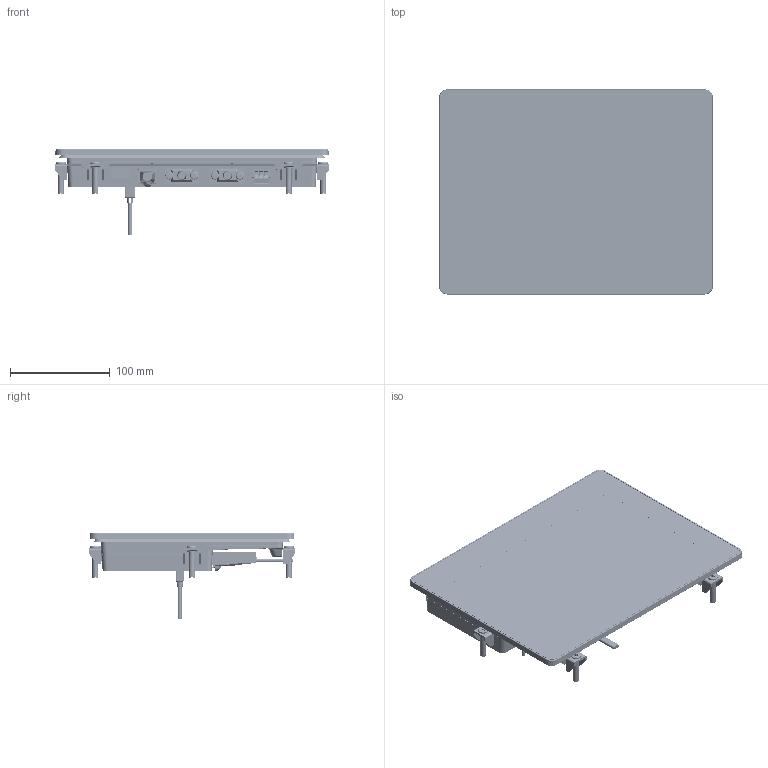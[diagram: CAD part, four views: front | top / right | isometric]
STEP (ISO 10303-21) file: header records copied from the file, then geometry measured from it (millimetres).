
FILE_DESCRIPTION((''),'2;1');
FILE_NAME('10_ASM_ASM','2024-09-29T14:08:31',('SESA409019'),('Schneider-Electric'),'CREO PARAMETRIC BY PTC INC, 2021284','CREO PARAMETRIC BY PTC INC, 2021284','');
FILE_SCHEMA(('AP242_MANAGED_MODEL_BASED_3D_ENGINEERING_MIM_LF { 1 0 10303 442 1 1 4 }'));
Products named in the file (42): EAV7696101; 97_MODULE_A101VW01V3_X1_AUO_LCD_ASM; HUA16208; HUA20681; HUA24890; HUA19829_1; HUA19829_2; HUA19829_3; HUA19829_ASM; 532610271; S1B9587301; PSFV30R_2STLF; SSFW08R_1_3ST_LF; HUA24212; 292303-7; EAV7551626; HUA11949; NHA1005901; EAV7551901_ASM_ASM; HUA2291101; BACK_SUB_ASM_ASM; 10_OVERLAY_NEW; 10_OVELRAY_ADHESIVE; EAV7696601_ASM_ASM; EAV7696701_ASM_ASM; S1B9586701; PRISE_SUBD9; PLUG_RJ45_SHIELDED__HYPERION; PLUG_USB_A; CON_PHN_MSTB_2_5-3ST-5_08_NONE; NHA1298701; NHA1298601; EAV7731101_ASM_ASM; S1B6026601; V12122003_GXO; GASKET_LJ_10; NHA2326301; HUA24933_YITIAN; EAV9112101; MDI_STEP2_MINIUSB_PLUG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
Assembly tree (56 placements, depth 6):
  10_ASM_ASM
    EAV7696001_ASM_ASM
      EAV7696101
      97_MODULE_A101VW01V3_X1_AUO_LCD_ASM
      BACK_SUB_ASM_ASM
        EAV7551901_ASM_ASM
          HUA16208
          HUA20681
          HUA24890  x2
          HUA19829_ASM
            HUA19829_1
            HUA19829_2
            HUA19829_3
          532610271
          S1B9587301
          PSFV30R_2STLF  x2
          SSFW08R_1_3ST_LF
          HUA24212
          292303-7
          EAV7551626
          HUA11949
          NHA1005901
        HUA2291101
      EAV7696601_ASM_ASM
        10_OVERLAY_NEW
        10_OVELRAY_ADHESIVE
      EAV7696701_ASM_ASM
      S1B9586701
      PRISE_SUBD9  x2
      PLUG_RJ45_SHIELDED__HYPERION
      PLUG_USB_A
      CON_PHN_MSTB_2_5-3ST-5_08_NONE
      EAV7731101_ASM_ASM  x6
        NHA1298701
        NHA1298601
      S1B6026601
      HUA2291101  x6
      V12122003_GXO
      GASKET_LJ_10
      NHA2326301  x2
      HUA24933_YITIAN
      EAV9112101
      MDI_STEP2_MINIUSB_PLUG
Bounding box: 276 x 207 x 85.75 mm (x, y, z)
Volume: 429991.4 mm3; surface area: 543927.1 mm2
Topology: 53 solids, 58 shells, 11290 faces, 31953 edges, 20861 vertices
Faces by surface type: plane 8496, cylinder 1892, cone 439, torus 222, bspline 181, sphere 37, extrusion 23
Entity records: 291300 total; most frequent: CARTESIAN_POINT 61711, ORIENTED_EDGE 49276, DIRECTION 44409, EDGE_CURVE 24638, VECTOR 20143, LINE 20120, VERTEX_POINT 16102, AXIS2_PLACEMENT_3D 12133
